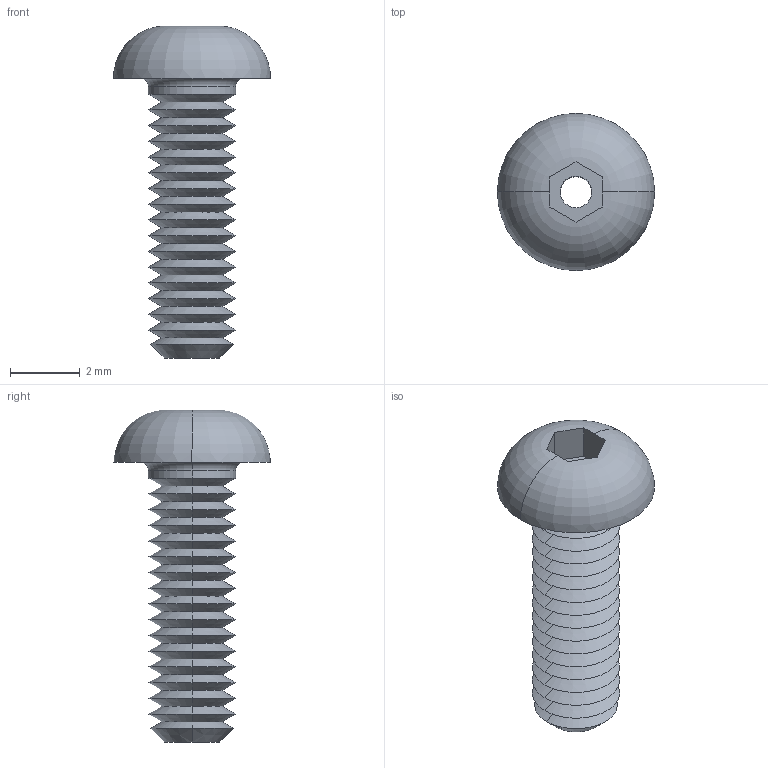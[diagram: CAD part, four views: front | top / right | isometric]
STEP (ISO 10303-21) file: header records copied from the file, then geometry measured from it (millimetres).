
FILE_DESCRIPTION (( 'STEP AP203' ), '1' );
FILE_NAME ('P0094.025-008-A2.step', '2019-07-12T16:50:29', ( '' ), ( '' ), 'SwSTEP 2.0', 'SolidWorks 2017', '' );
FILE_SCHEMA (( 'CONFIG_CONTROL_DESIGN' ));
Length unit declared in the file: millimetre
Products named in the file (1): P0094.025-008-A2
Bounding box: 4.5 x 4.5 x 9.5 mm (x, y, z)
Volume: 39.5 mm3; surface area: 169.1 mm2
Topology: 1 solids, 1 shells, 83 faces, 172 edges, 92 vertices
Faces by surface type: cone 66, plane 9, cylinder 4, torus 4
Entity records: 2245 total; most frequent: DIRECTION 414, CARTESIAN_POINT 384, ORIENTED_EDGE 344, EDGE_CURVE 172, AXIS2_PLACEMENT_3D 166, VERTEX_POINT 92, EDGE_LOOP 86, FACE_OUTER_BOUND 83
